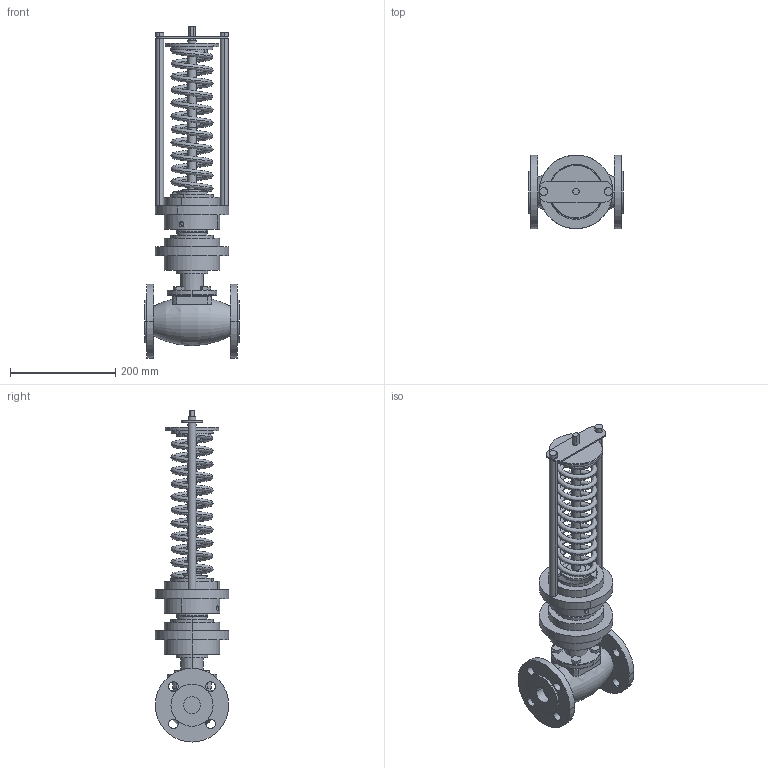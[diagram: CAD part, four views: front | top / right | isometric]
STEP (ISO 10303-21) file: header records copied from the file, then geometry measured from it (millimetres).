
FILE_DESCRIPTION (( 'STEP AP214' ), '1' );
FILE_NAME ('RDT, RDT-P DN-32 (0.1).STEP', '2025-12-12T07:06:31', ( '' ), ( '' ), 'SwSTEP 2.0', 'SolidWorks 2023', '' );
FILE_SCHEMA (( 'AUTOMOTIVE_DESIGN' ));
Length unit declared in the file: millimetre
Products named in the file (4): RDT, RDT-P DN-32 (0.1); RDT DN-32(______).stp; RDT___ DN-15-100(0.1)_4.stp; RDT, RDT-P DN-32 (0.1).stp
Assembly tree (3 placements, depth 3):
  RDT, RDT-P DN-32 (0.1)
    RDT, RDT-P DN-32 (0.1).stp
      RDT___ DN-15-100(0.1)_4.stp
      RDT DN-32(______).stp
Bounding box: 180 x 140 x 631.5 mm (x, y, z)
Volume: 3200586.9 mm3; surface area: 394176.7 mm2
Topology: 2 solids, 2 shells, 195 faces, 458 edges, 298 vertices
Faces by surface type: cylinder 96, plane 83, cone 12, bspline 2, torus 2
Entity records: 9882 total; most frequent: CARTESIAN_POINT 5059, DIRECTION 1067, ORIENTED_EDGE 916, EDGE_CURVE 458, AXIS2_PLACEMENT_3D 421, VERTEX_POINT 298, EDGE_LOOP 248, VECTOR 225
